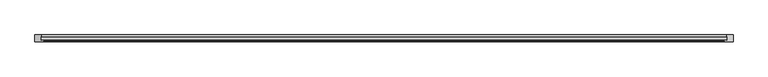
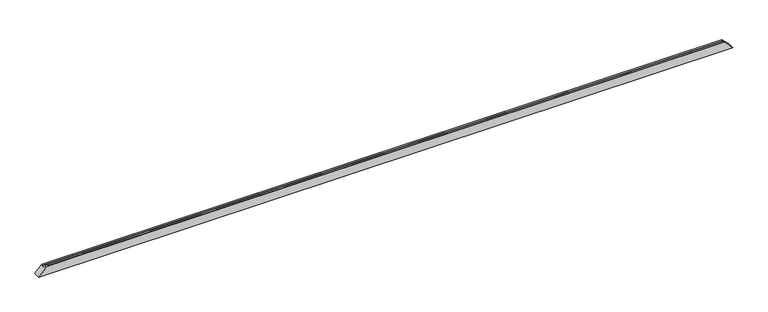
"""IFC4 building model written with IfcOpenShell, lengths in millimetres: proxy geometry, Weiku - Montante - Caixilho 02.2.01.005 : Weiku - Montante - Caixilho 02.2.01.005."""

from ifc_helpers import new_model, si_unit, frame, origin, place, context, project, spatial, ellipse_curve, source, transform, mapped, element, save
from ifc_brep_helpers import plane_surface, cylinder_surface, advanced_brep


def generic_models_1c5de7f0(model_context):
    return source(origin(), model_context, "Body", "AdvancedBrep", [
        advanced_brep(
        [(-2451.0, 12.5, 46.0), (-2430.8909676, 12.5, 66.1090324), (2430.8909676, 12.5, 66.1090324), (2451.0, 12.5, 46.0), (-2451.0, 37.8314286, 46.0), (2451.0, 37.8314286, 46.0), (-2448.0, 37.027581, 49.0), (2448.0, 37.027581, 49.0), (-2448.0, 50.0, 49.0), (2448.0, 50.0, 49.0), (2497.0, 50.0, 0.0), (-2497.0, 50.0, 0.0), (2497.0, 0.0, 0.0), (-2497.0, 0.0, 0.0), (2435.4997332, 0.0, 61.5002668), (-2435.4997332, 0.0, 61.5002668), (-2430.118227, 11.4929448, 66.881773), (-2432.6019557, 2.2235429, 64.3980443), (2432.6019557, 2.2235429, 64.3980443), (2430.118227, 11.4929448, 66.881773)],
        [
            (0, 1),
            (1, 2),
            (2, 3),
            (3, 0),
            (4, 0),
            (3, 5),
            (5, 4),
            (6, 4),
            (5, 7),
            (7, 6),
            (8, 6),
            (7, 9),
            (9, 8),
            (10, 11),
            (11, 8),
            (9, 10),
            (10, 12),
            (12, 13),
            (13, 11),
            (12, 14),
            (14, 15),
            (15, 13),
            (16, 17),
            (17, 18),
            (18, 19),
            (19, 16),
            (15, 17, ellipse_curve(frame((-2435.4997332, 3.0, 61.5002668), z_axis=(-0.7071067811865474, 0.0, 0.7071067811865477), x_axis=(-0.7071067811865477, 0.0, -0.7071067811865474)), 4.2426407, 3.0)),
            (16, 1, ellipse_curve(frame((-2430.8909676, 11.7, 66.1090324), z_axis=(-0.7071067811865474, 0.0, 0.7071067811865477), x_axis=(-0.7071067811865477, 0.0, -0.7071067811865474)), 1.1313708, 0.8)),
            (2, 19, ellipse_curve(frame((2430.8909676, 11.7, 66.1090324), z_axis=(0.7071067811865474, 0.0, 0.7071067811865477), x_axis=(-0.7071067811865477, 0.0, 0.7071067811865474)), 1.1313708, 0.8)),
            (18, 14, ellipse_curve(frame((2435.4997332, 3.0, 61.5002668), z_axis=(0.7071067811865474, 0.0, 0.7071067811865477), x_axis=(-0.7071067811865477, 0.0, 0.7071067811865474)), 4.2426407, 3.0)),
        ],
        [
            plane_surface(frame((-2497.0, 12.5, 66.1090324), z_axis=(0.0, 1.0, 0.0), x_axis=(1.0, 0.0, 0.0))),
            plane_surface(frame((-2497.0, 12.5, 46.0), z_axis=(0.0, 0.0, 1.0), x_axis=(1.0, 0.0, 0.0))),
            plane_surface(frame((-2497.0, 37.8314286, 46.0), z_axis=(0.0, -0.9659258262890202, -0.2588190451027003), x_axis=(1.0, 0.0, 0.0))),
            plane_surface(frame((-2497.0, 37.027581, 49.0), z_axis=(0.0, 0.0, 1.0), x_axis=(1.0, 0.0, 0.0))),
            plane_surface(frame((-2497.0, 50.0, 49.0), z_axis=(0.0, 1.0, 0.0), x_axis=(1.0, 0.0, 0.0))),
            plane_surface(frame((-2497.0, 50.0, 0.0), z_axis=(0.0, 0.0, -1.0), x_axis=(1.0, 0.0, 0.0))),
            plane_surface(frame((-2497.0, 0.0, 0.0), z_axis=(0.0, -1.0, 0.0), x_axis=(1.0, 0.0, 0.0))),
            plane_surface(frame((-2497.0, 2.2235429, 64.3980443), z_axis=(0.0, -0.2588190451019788, 0.9659258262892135), x_axis=(1.0, 0.0, 0.0))),
            plane_surface(frame((-2567.0, -15.0, -70.0), z_axis=(-0.7071067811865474, 0.0, 0.7071067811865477), x_axis=(0.0, 1.0, 0.0))),
            plane_surface(frame((2427.0, -15.0, 70.0), z_axis=(0.7071067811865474, 0.0, 0.7071067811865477), x_axis=(0.0, 1.0, 0.0))),
            cylinder_surface(frame((-2497.0, 11.7, 66.1090324), z_axis=(-1.0, 0.0, 0.0), x_axis=(0.0, 1.0, 0.0)), 0.8),
            cylinder_surface(frame((-2497.0, 3.0, 61.5002668), z_axis=(-1.0, 0.0, 0.0), x_axis=(0.0, 1.0, 0.0)), 3.0),
        ],
        [
            (0, [[1, 2, 3, 4]]),
            (1, [[5, -4, 6, 7]]),
            (2, [[8, -7, 9, 10]]),
            (3, [[11, -10, 12, 13]]),
            (4, [[14, 15, -13, 16]]),
            (5, [[-14, 17, 18, 19]]),
            (6, [[-18, 20, 21, 22]]),
            (7, [[23, 24, 25, 26]]),
            (8, [[-1, -5, -8, -11, -15, -19, -22, 27, -23, 28]]),
            (9, [[-3, 29, -25, 30, -20, -17, -16, -12, -9, -6]]),
            (10, [[-28, -26, -29, -2]]),
            (11, [[-27, -21, -30, -24]]),
        ],
    ),
    ])


if __name__ == "__main__":
    model = new_model("IFC4")
    model_context = context("Model", 3, world=origin())
    ifc_project = project(units=[si_unit("LENGTHUNIT", "METRE", prefix="MILLI")], contexts=[model_context])
    site = spatial("IfcSite", under=ifc_project)
    building = spatial("IfcBuilding", under=site)
    placement = place(None, origin())
    generic_models_shape = generic_models_1c5de7f0(model_context)
    element("IfcBuildingElementProxy", 1, Name="Weiku - Montante - Caixilho 02.2.01.005 : Weiku - Montante - Caixilho 02.2.01.005", ObjectType="Weiku - Montante - Caixilho 02.2.01.005 : Weiku - Montante - Caixilho 02.2.01.005", at=placement, inside=building, context=model_context, shape_type="MappedRepresentation", body=[
        mapped(generic_models_shape, transform((0.0, 0.0, 0.0), x_axis=(1.0, 0.0, 0.0), y_axis=(0.0, 1.0, 0.0), z_axis=(0.0, 0.0, 1.0))),
    ])
    save(model, "model.ifc")
